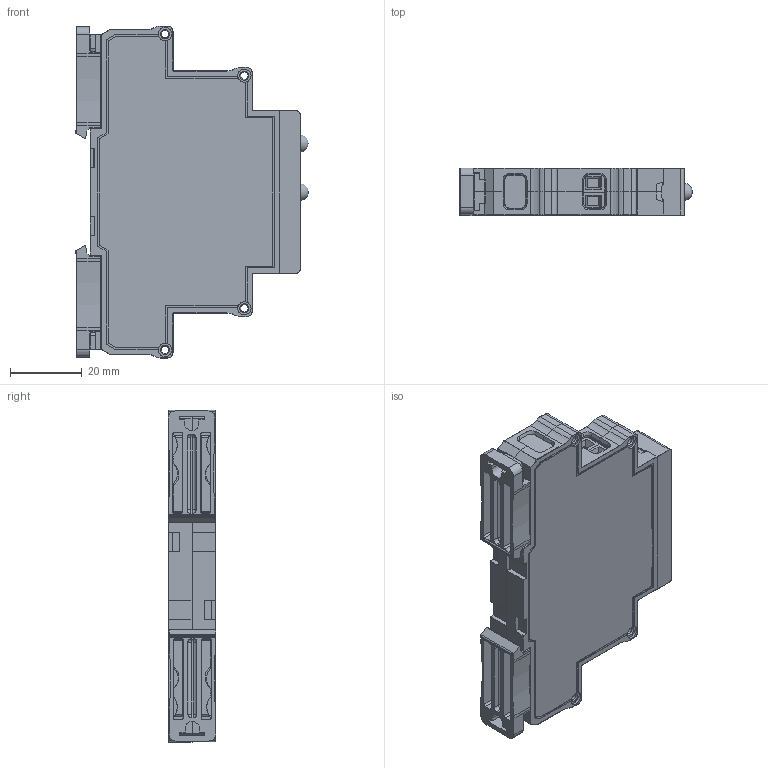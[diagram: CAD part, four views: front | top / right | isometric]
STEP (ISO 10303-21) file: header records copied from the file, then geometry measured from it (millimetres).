
FILE_DESCRIPTION(('STEP AP214'), '1');
FILE_NAME('Ñáîðêà_ËÑÌ-2êç_2025', '', ('UNSPECIFIED'), ('UNSPECIFIED'), 'C3D Converter', 'C3D Toolkit', '');
FILE_SCHEMA(('AUTOMOTIVE_DESIGN { 1 0 10303 214 3 1 1}'));
Length unit declared in the file: millimetre
Products named in the file (12): Case_UC1-2sR-2024_SimpleModel_6mm; UC1-2sR-2024_Plug_13mm; Case13-18-23mm_2step_Lock_v01a_Build20140909_1552; Case_UC1-2sR-2025_Face_13mm
Assembly tree (17 placements, depth 3):
  (unnamed)
    Case_UC1-2sR-2024_SimpleModel_6mm  x2
    UC1-2sR-2024_Plug_13mm  x2
    Case13-18-23mm_2step_Lock_v01a_Build20140909_1552  x2
    Case_UC1-2sR-2025_Face_13mm
    (unnamed)  x2
      (unnamed)
    (unnamed)
    (unnamed)
    (unnamed)
    (unnamed)
    (unnamed)  x2
Bounding box: 64.83 x 13.2 x 92.4 mm (x, y, z)
Volume: 20739.2 mm3; surface area: 33001.3 mm2
Topology: 40 solids, 40 shells, 3874 faces, 10765 edges, 6974 vertices
Faces by surface type: plane 2956, cylinder 452, extrusion 212, torus 130, cone 56, bspline 36, sphere 32
Full cylindrical faces by diameter (mm): 1.238 x4, 2.1 x8, 3.7 x8, 3.9 x4, 4.8 x2, 6 x2, 6.1 x2, 7.5 x2
Entity records: 121190 total; most frequent: CARTESIAN_POINT 20635, ORIENTED_EDGE 16684, DIRECTION 14084, EDGE_CURVE 8342, VECTOR 7512, LINE 7300, VERTEX_POINT 5490, AXIS2_PLACEMENT_3D 3286
